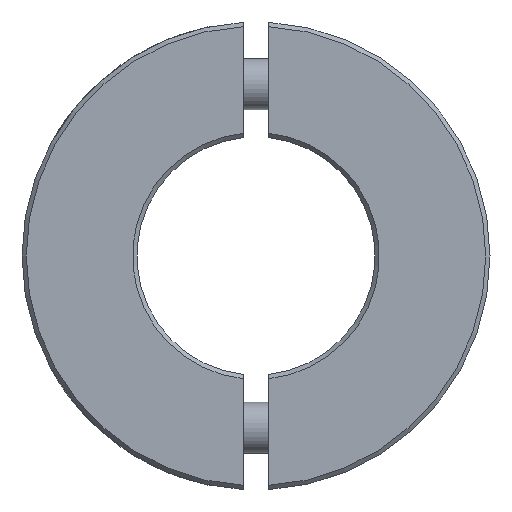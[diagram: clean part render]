
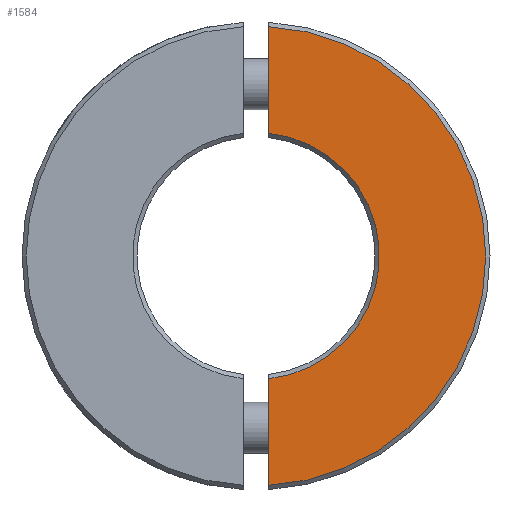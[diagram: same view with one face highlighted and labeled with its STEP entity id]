
A CAD part, left-side view. The second image highlights one B-rep face of the part: STEP entity #1584.
In plain terms, the highlighted planar face has unit normal (-1, 0, 0).
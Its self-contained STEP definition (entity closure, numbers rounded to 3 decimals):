
#26=PLANE('',#1668);
#106=LINE('',#2149,#180);
#107=LINE('',#2150,#181);
#180=VECTOR('',#1809,1000.);
#181=VECTOR('',#1810,1000.);
#260=ORIENTED_EDGE('',*,*,#551,.T.);
#261=ORIENTED_EDGE('',*,*,#552,.T.);
#262=ORIENTED_EDGE('',*,*,#548,.F.);
#263=ORIENTED_EDGE('',*,*,#553,.T.);
#548=EDGE_CURVE('',#694,#695,#796,.T.);
#551=EDGE_CURVE('',#696,#697,#797,.T.);
#552=EDGE_CURVE('',#697,#695,#106,.T.);
#553=EDGE_CURVE('',#694,#696,#107,.T.);
#694=VERTEX_POINT('',#2135);
#695=VERTEX_POINT('',#2136);
#696=VERTEX_POINT('',#2147);
#697=VERTEX_POINT('',#2148);
#796=CIRCLE('',#1667,27.);
#797=CIRCLE('',#1669,14.5);
#850=EDGE_LOOP('',(#260,#261,#262,#263));
#948=FACE_BOUND('',#850,.T.);
#1584=ADVANCED_FACE('',(#948),#26,.T.);
#1667=AXIS2_PLACEMENT_3D('',#2134,#1803,#1804);
#1668=AXIS2_PLACEMENT_3D('',#2145,#1805,#1806);
#1669=AXIS2_PLACEMENT_3D('',#2146,#1807,#1808);
#1803=DIRECTION('',(1.,0.,0.));
#1804=DIRECTION('',(0.,0.,-1.));
#1805=DIRECTION('',(-1.,0.,0.));
#1806=DIRECTION('',(0.,0.,1.));
#1807=DIRECTION('',(1.,0.,0.));
#1808=DIRECTION('',(0.,0.,-1.));
#1809=DIRECTION('',(0.,0.,-1.));
#1810=DIRECTION('',(0.,0.,-1.));
#2134=CARTESIAN_POINT('',(-7.5,0.,0.));
#2135=CARTESIAN_POINT('',(-7.5,-1.5,26.958));
#2136=CARTESIAN_POINT('',(-7.5,-1.5,-26.958));
#2145=CARTESIAN_POINT('',(-7.5,27.,0.));
#2146=CARTESIAN_POINT('',(-7.5,0.,0.));
#2147=CARTESIAN_POINT('',(-7.5,-1.5,14.422));
#2148=CARTESIAN_POINT('',(-7.5,-1.5,-14.422));
#2149=CARTESIAN_POINT('',(-7.5,-1.5,0.));
#2150=CARTESIAN_POINT('',(-7.5,-1.5,36.667));
